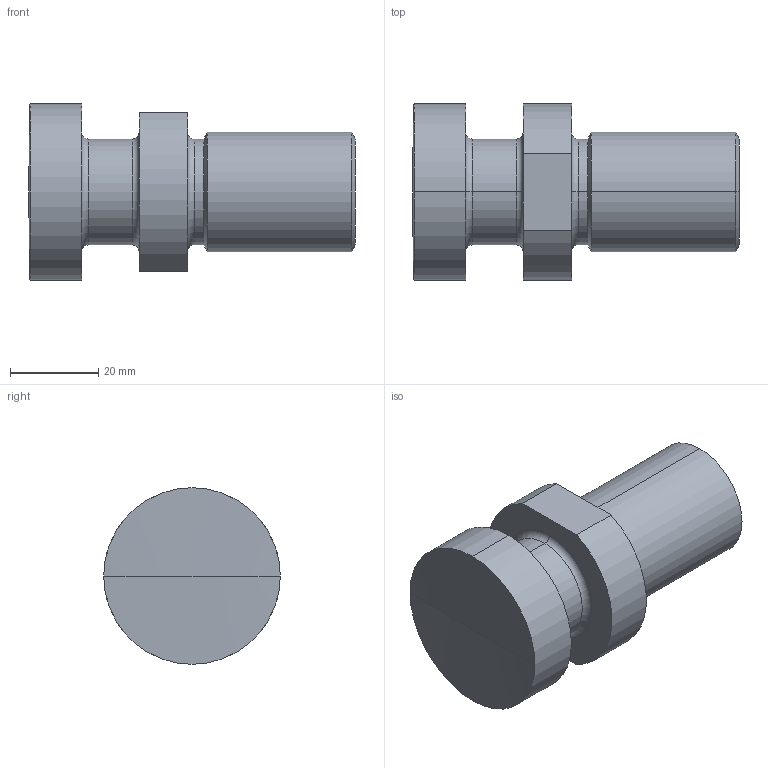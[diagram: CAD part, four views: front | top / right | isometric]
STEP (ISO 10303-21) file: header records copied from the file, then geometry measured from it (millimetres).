
FILE_DESCRIPTION (( 'STEP AP203' ), '1' );
FILE_NAME ('GERMA_Druckstueck_mit_Kupplungszapfen_DK-27.STEP', '2023-09-12T06:50:39', ( '' ), ( '' ), 'SwSTEP 2.0', 'SolidWorks 2016', '' );
FILE_SCHEMA (( 'CONFIG_CONTROL_DESIGN' ));
Length unit declared in the file: millimetre
Products named in the file (1): GERMA_Druckstueck_mit_Kupplungszapfen_DK-27
Bounding box: 74 x 40 x 40 mm (x, y, z)
Volume: 55380.2 mm3; surface area: 11027.3 mm2
Topology: 1 solids, 1 shells, 28 faces, 58 edges, 35 vertices
Faces by surface type: cylinder 10, torus 6, plane 6, cone 4, sphere 2
Entity records: 829 total; most frequent: DIRECTION 154, CARTESIAN_POINT 122, ORIENTED_EDGE 116, AXIS2_PLACEMENT_3D 67, EDGE_CURVE 58, CIRCLE 38, VERTEX_POINT 35, EDGE_LOOP 31
